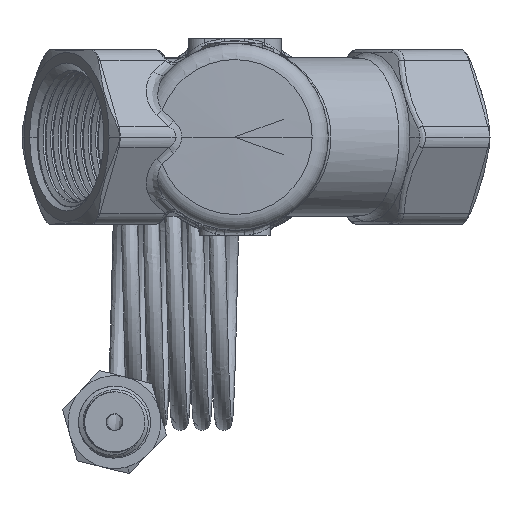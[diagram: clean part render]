
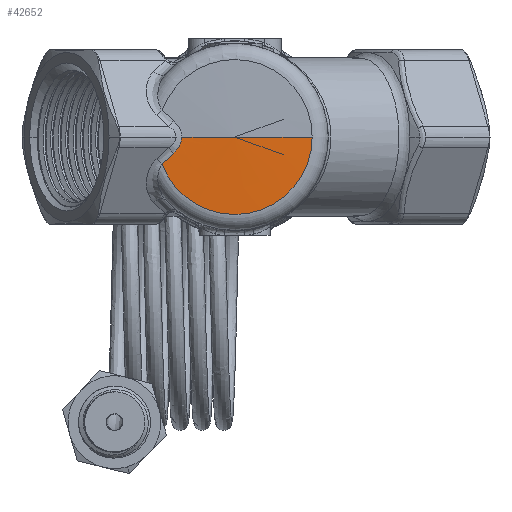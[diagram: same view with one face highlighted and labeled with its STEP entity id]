
A CAD part, front view. The second image highlights one B-rep face of the part: STEP entity #42652.
In plain terms, the highlighted conical face has half-angle 88.5 degrees and reference radius 14.178 mm.
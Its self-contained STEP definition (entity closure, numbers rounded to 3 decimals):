
#343 = DIRECTION ( 'NONE',  ( -1., 0., 0. ) ) ;
#1847 = VERTEX_POINT ( 'NONE', #20989 ) ;
#2380 = VECTOR ( 'NONE', #35470, 1000. ) ;
#2638 = CARTESIAN_POINT ( 'NONE',  ( -13.7, -56.996, -2.987 ) ) ;
#2894 = CARTESIAN_POINT ( 'NONE',  ( -12.759, -57.027, -1.904 ) ) ;
#3983 = DIRECTION ( 'NONE',  ( 1., 0., 0. ) ) ;
#5500 = B_SPLINE_CURVE_WITH_KNOTS ( 'NONE', 3,
 ( #18855, #39001, #32220, #9643, #18642, #6168, #25859, #2894, #26075, #19067, #16009, #9426 ),
 .UNSPECIFIED., .F., .F.,
 ( 4, 2, 2, 2, 2, 4 ),
 ( 0.003, 0.004, 0.004, 0.005, 0.006, 0.007 ),
 .UNSPECIFIED. ) ;
#6168 = CARTESIAN_POINT ( 'NONE',  ( -12.37, -57.04, -1.131 ) ) ;
#8361 = AXIS2_PLACEMENT_3D ( 'NONE', #20024, #16739, #343 ) ;
#9426 = CARTESIAN_POINT ( 'NONE',  ( -13.7, -56.996, -2.987 ) ) ;
#9486 = CARTESIAN_POINT ( 'NONE',  ( -13.7, -56.996, -2.987 ) ) ;
#9643 = CARTESIAN_POINT ( 'NONE',  ( -12.226, -57.045, -0.569 ) ) ;
#10713 = ORIENTED_EDGE ( 'NONE', *, *, #29486, .T. ) ;
#12195 = VECTOR ( 'NONE', #18972, 1000. ) ;
#13898 = VERTEX_POINT ( 'NONE', #40011 ) ;
#14287 = B_SPLINE_CURVE_WITH_KNOTS ( 'NONE', 3,
 ( #9486, #37054, #32931, #19765 ),
 .UNSPECIFIED., .F., .F.,
 ( 4, 4 ),
 ( 0., 0.003 ),
 .UNSPECIFIED. ) ;
#15334 = EDGE_CURVE ( 'NONE', #15744, #13898, #39120, .T. ) ;
#15744 = VERTEX_POINT ( 'NONE', #27406 ) ;
#16009 = CARTESIAN_POINT ( 'NONE',  ( -13.486, -57.003, -2.792 ) ) ;
#16034 = EDGE_CURVE ( 'NONE', #18235, #16368, #5500, .T. ) ;
#16368 = VERTEX_POINT ( 'NONE', #2638 ) ;
#16511 = ORIENTED_EDGE ( 'NONE', *, *, #15334, .T. ) ;
#16739 = DIRECTION ( 'NONE',  ( 0., -1., 0. ) ) ;
#17856 = ORIENTED_EDGE ( 'NONE', *, *, #39551, .T. ) ;
#17879 = ORIENTED_EDGE ( 'NONE', *, *, #35528, .F. ) ;
#18235 = VERTEX_POINT ( 'NONE', #33431 ) ;
#18642 = CARTESIAN_POINT ( 'NONE',  ( -12.256, -57.044, -0.712 ) ) ;
#18812 = LINE ( 'NONE', #42439, #2380 ) ;
#18855 = CARTESIAN_POINT ( 'NONE',  ( -12.178, -57.047, 0. ) ) ;
#18972 = DIRECTION ( 'NONE',  ( -1., 0.026, 0. ) ) ;
#19067 = CARTESIAN_POINT ( 'NONE',  ( -13.287, -57.01, -2.585 ) ) ;
#19765 = CARTESIAN_POINT ( 'NONE',  ( -15.804, -56.929, -4.904 ) ) ;
#20024 = CARTESIAN_POINT ( 'NONE',  ( -2.5, -56.929, 0. ) ) ;
#20989 = CARTESIAN_POINT ( 'NONE',  ( -2.5, -57.3, 0. ) ) ;
#22168 = EDGE_LOOP ( 'NONE', ( #17879, #17856, #34959, #10713, #16511 ) ) ;
#23872 = FACE_OUTER_BOUND ( 'NONE', #22168, .T. ) ;
#25859 = CARTESIAN_POINT ( 'NONE',  ( -12.481, -57.036, -1.396 ) ) ;
#26075 = CARTESIAN_POINT ( 'NONE',  ( -12.924, -57.021, -2.142 ) ) ;
#27406 = CARTESIAN_POINT ( 'NONE',  ( -15.804, -56.929, -4.904 ) ) ;
#29486 = EDGE_CURVE ( 'NONE', #16368, #15744, #14287, .T. ) ;
#31694 = LINE ( 'NONE', #41953, #12195 ) ;
#32220 = CARTESIAN_POINT ( 'NONE',  ( -12.187, -57.046, -0.285 ) ) ;
#32931 = CARTESIAN_POINT ( 'NONE',  ( -15.103, -56.952, -4.264 ) ) ;
#33431 = CARTESIAN_POINT ( 'NONE',  ( -12.178, -57.047, 0. ) ) ;
#33952 = CONICAL_SURFACE ( 'NONE', #39549, 14.179, 1.545 ) ;
#33960 = CARTESIAN_POINT ( 'NONE',  ( -2.5, -56.929, 0. ) ) ;
#34959 = ORIENTED_EDGE ( 'NONE', *, *, #16034, .T. ) ;
#35470 = DIRECTION ( 'NONE',  ( 1., 0.026, 0. ) ) ;
#35528 = EDGE_CURVE ( 'NONE', #1847, #13898, #18812, .T. ) ;
#37054 = CARTESIAN_POINT ( 'NONE',  ( -14.402, -56.974, -3.625 ) ) ;
#39001 = CARTESIAN_POINT ( 'NONE',  ( -12.178, -57.047, -0.143 ) ) ;
#39120 = CIRCLE ( 'NONE', #8361, 14.179 ) ;
#39549 = AXIS2_PLACEMENT_3D ( 'NONE', #33960, #40958, #3983 ) ;
#39551 = EDGE_CURVE ( 'NONE', #1847, #18235, #31694, .T. ) ;
#40011 = CARTESIAN_POINT ( 'NONE',  ( 11.679, -56.929, 0. ) ) ;
#40958 = DIRECTION ( 'NONE',  ( 0., 1., 0. ) ) ;
#41953 = CARTESIAN_POINT ( 'NONE',  ( -16.679, -56.929, 0. ) ) ;
#42439 = CARTESIAN_POINT ( 'NONE',  ( 11.679, -56.929, 0. ) ) ;
#42652 = ADVANCED_FACE ( 'NONE', ( #23872 ), #33952, .T. ) ;
